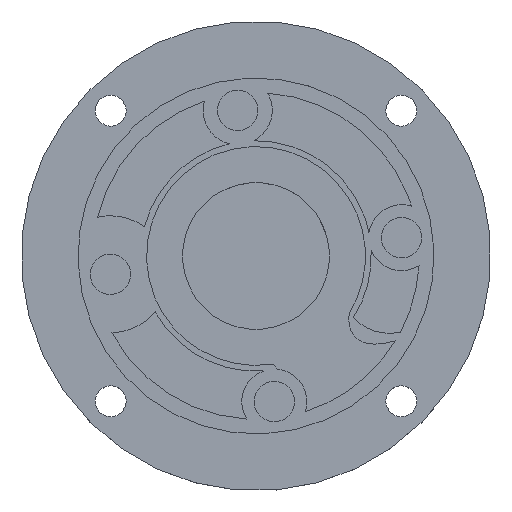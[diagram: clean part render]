
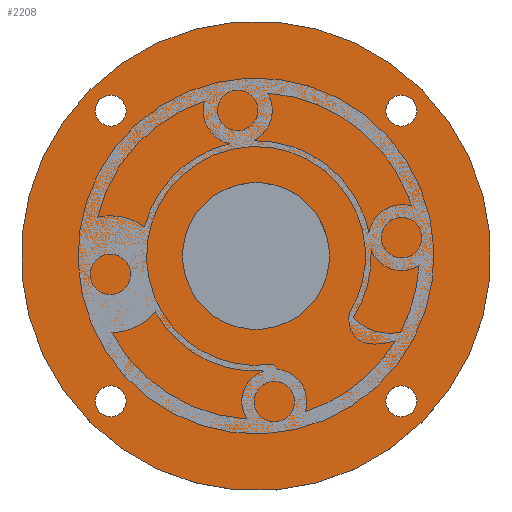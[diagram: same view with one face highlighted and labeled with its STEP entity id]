
A CAD part, top view. The second image highlights one B-rep face of the part: STEP entity #2208.
In plain terms, the highlighted planar face has unit normal (0, 0, 1).
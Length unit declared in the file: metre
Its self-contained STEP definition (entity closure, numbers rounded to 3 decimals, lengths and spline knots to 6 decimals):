
#9 = EDGE_CURVE ( 'NONE', #2229, #265, #2344, .T. ) ;
#17 = ORIENTED_EDGE ( 'NONE', *, *, #2207, .T. ) ;
#25 = DIRECTION ( 'NONE',  ( 0., 0., 1. ) ) ;
#45 = DIRECTION ( 'NONE',  ( 0., -1., 0. ) ) ;
#72 = CIRCLE ( 'NONE', #642, 0.01 ) ;
#73 = ORIENTED_EDGE ( 'NONE', *, *, #2181, .T. ) ;
#155 = EDGE_CURVE ( 'NONE', #1628, #2138, #1662, .T. ) ;
#168 = ORIENTED_EDGE ( 'NONE', *, *, #155, .T. ) ;
#186 = CARTESIAN_POINT ( 'NONE',  ( 0., 0., 0. ) ) ;
#221 = CARTESIAN_POINT ( 'NONE',  ( 0., -0.01, 0. ) ) ;
#254 = CARTESIAN_POINT ( 'NONE',  ( 0.021455, -0.020091, 0. ) ) ;
#265 = VERTEX_POINT ( 'NONE', #683 ) ;
#292 = FACE_BOUND ( 'NONE', #2603, .T. ) ;
#308 = AXIS2_PLACEMENT_3D ( 'NONE', #475, #1069, #1851 ) ;
#341 = DIRECTION ( 'NONE',  ( 0., 0., -1. ) ) ;
#353 = CIRCLE ( 'NONE', #2713, 0.0021 ) ;
#381 = VERTEX_POINT ( 'NONE', #2854 ) ;
#427 = EDGE_CURVE ( 'NONE', #2881, #2033, #353, .T. ) ;
#451 = EDGE_LOOP ( 'NONE', ( #2314, #2280 ) ) ;
#475 = CARTESIAN_POINT ( 'NONE',  ( -0.032384, -0.032384, 0. ) ) ;
#520 = CARTESIAN_POINT ( 'NONE',  ( 0., 0.032, 0. ) ) ;
#538 = DIRECTION ( 'NONE',  ( 0., 0., -1. ) ) ;
#613 = VERTEX_POINT ( 'NONE', #2673 ) ;
#627 = ORIENTED_EDGE ( 'NONE', *, *, #2520, .T. ) ;
#642 = AXIS2_PLACEMENT_3D ( 'NONE', #2669, #2368, #2920 ) ;
#651 = DIRECTION ( 'NONE',  ( 0., -1., 0. ) ) ;
#679 = CARTESIAN_POINT ( 'NONE',  ( -0.017991, -0.021455, 0. ) ) ;
#683 = CARTESIAN_POINT ( 'NONE',  ( 0.021455, -0.015891, 0. ) ) ;
#745 = PLANE ( 'NONE',  #308 ) ;
#846 = VERTEX_POINT ( 'NONE', #221 ) ;
#867 = VERTEX_POINT ( 'NONE', #2898 ) ;
#967 = FACE_BOUND ( 'NONE', #2836, .T. ) ;
#1003 = DIRECTION ( 'NONE',  ( 0., 0., -1. ) ) ;
#1010 = CIRCLE ( 'NONE', #3349, 0.0021 ) ;
#1044 = DIRECTION ( 'NONE',  ( 0., -1., 0. ) ) ;
#1045 = ORIENTED_EDGE ( 'NONE', *, *, #2883, .T. ) ;
#1055 = FACE_BOUND ( 'NONE', #1775, .T. ) ;
#1069 = DIRECTION ( 'NONE',  ( 0., 0., 1. ) ) ;
#1150 = CARTESIAN_POINT ( 'NONE',  ( -0.021455, 0.020091, 0. ) ) ;
#1303 = CIRCLE ( 'NONE', #2810, 0.0021 ) ;
#1311 = CARTESIAN_POINT ( 'NONE',  ( 0.017991, 0.021455, 0. ) ) ;
#1334 = EDGE_CURVE ( 'NONE', #867, #2916, #2231, .T. ) ;
#1350 = AXIS2_PLACEMENT_3D ( 'NONE', #1311, #3200, #2922 ) ;
#1360 = EDGE_CURVE ( 'NONE', #846, #381, #72, .T. ) ;
#1510 = EDGE_LOOP ( 'NONE', ( #168, #1688 ) ) ;
#1561 = AXIS2_PLACEMENT_3D ( 'NONE', #2821, #341, #2243 ) ;
#1569 = AXIS2_PLACEMENT_3D ( 'NONE', #2599, #2855, #2615 ) ;
#1628 = VERTEX_POINT ( 'NONE', #2176 ) ;
#1636 = CIRCLE ( 'NONE', #1350, 0.0021 ) ;
#1662 = CIRCLE ( 'NONE', #1569, 0.032 ) ;
#1675 = CARTESIAN_POINT ( 'NONE',  ( -0.021455, 0.017991, 0. ) ) ;
#1688 = ORIENTED_EDGE ( 'NONE', *, *, #3332, .T. ) ;
#1734 = DIRECTION ( 'NONE',  ( 0., 0., -1. ) ) ;
#1761 = DIRECTION ( 'NONE',  ( 0., -1., 0. ) ) ;
#1775 = EDGE_LOOP ( 'NONE', ( #3377, #1045 ) ) ;
#1816 = DIRECTION ( 'NONE',  ( 0., -1., 0. ) ) ;
#1851 = DIRECTION ( 'NONE',  ( 1., 0., 0. ) ) ;
#1913 = DIRECTION ( 'NONE',  ( 0., -1., 0. ) ) ;
#1952 = CARTESIAN_POINT ( 'NONE',  ( -0.017991, -0.019355, 0. ) ) ;
#1965 = DIRECTION ( 'NONE',  ( 0., -1., 0. ) ) ;
#2015 = CIRCLE ( 'NONE', #3191, 0.032 ) ;
#2033 = VERTEX_POINT ( 'NONE', #2107 ) ;
#2084 = DIRECTION ( 'NONE',  ( 0., 0., 1. ) ) ;
#2099 = AXIS2_PLACEMENT_3D ( 'NONE', #679, #2572, #1761 ) ;
#2107 = CARTESIAN_POINT ( 'NONE',  ( -0.021455, 0.015891, 0. ) ) ;
#2115 = EDGE_CURVE ( 'NONE', #381, #846, #2744, .T. ) ;
#2138 = VERTEX_POINT ( 'NONE', #520 ) ;
#2176 = CARTESIAN_POINT ( 'NONE',  ( 0., -0.032, 0. ) ) ;
#2181 = EDGE_CURVE ( 'NONE', #613, #2699, #1303, .T. ) ;
#2201 = AXIS2_PLACEMENT_3D ( 'NONE', #2710, #25, #1913 ) ;
#2207 = EDGE_CURVE ( 'NONE', #2699, #613, #1636, .T. ) ;
#2208 = ADVANCED_FACE ( 'NONE', ( #2234, #1055, #967, #292, #3168, #2926 ), #745, .T. ) ;
#2220 = AXIS2_PLACEMENT_3D ( 'NONE', #1675, #538, #45 ) ;
#2229 = VERTEX_POINT ( 'NONE', #254 ) ;
#2231 = CIRCLE ( 'NONE', #2099, 0.0021 ) ;
#2234 = FACE_BOUND ( 'NONE', #2925, .T. ) ;
#2243 = DIRECTION ( 'NONE',  ( 0., -1., 0. ) ) ;
#2280 = ORIENTED_EDGE ( 'NONE', *, *, #2115, .F. ) ;
#2314 = ORIENTED_EDGE ( 'NONE', *, *, #1360, .F. ) ;
#2344 = CIRCLE ( 'NONE', #2975, 0.0021 ) ;
#2350 = CARTESIAN_POINT ( 'NONE',  ( -0.021455, 0.017991, 0. ) ) ;
#2368 = DIRECTION ( 'NONE',  ( 0., 0., 1. ) ) ;
#2406 = CIRCLE ( 'NONE', #2220, 0.0021 ) ;
#2520 = EDGE_CURVE ( 'NONE', #265, #2229, #1010, .T. ) ;
#2572 = DIRECTION ( 'NONE',  ( 0., 0., -1. ) ) ;
#2599 = CARTESIAN_POINT ( 'NONE',  ( 0., 0., 0. ) ) ;
#2603 = EDGE_LOOP ( 'NONE', ( #17, #73 ) ) ;
#2615 = DIRECTION ( 'NONE',  ( 0., -1., 0. ) ) ;
#2658 = CARTESIAN_POINT ( 'NONE',  ( 0.017991, 0.021455, 0. ) ) ;
#2669 = CARTESIAN_POINT ( 'NONE',  ( 0., 0., 0. ) ) ;
#2673 = CARTESIAN_POINT ( 'NONE',  ( 0.017991, 0.023555, 0. ) ) ;
#2683 = DIRECTION ( 'NONE',  ( 0., 0., -1. ) ) ;
#2699 = VERTEX_POINT ( 'NONE', #2779 ) ;
#2710 = CARTESIAN_POINT ( 'NONE',  ( 0., 0., 0. ) ) ;
#2713 = AXIS2_PLACEMENT_3D ( 'NONE', #2350, #1003, #1816 ) ;
#2744 = CIRCLE ( 'NONE', #2201, 0.01 ) ;
#2755 = DIRECTION ( 'NONE',  ( 0., 0., -1. ) ) ;
#2779 = CARTESIAN_POINT ( 'NONE',  ( 0.017991, 0.019355, 0. ) ) ;
#2810 = AXIS2_PLACEMENT_3D ( 'NONE', #2658, #2683, #3223 ) ;
#2821 = CARTESIAN_POINT ( 'NONE',  ( -0.017991, -0.021455, 0. ) ) ;
#2824 = ORIENTED_EDGE ( 'NONE', *, *, #3165, .T. ) ;
#2836 = EDGE_LOOP ( 'NONE', ( #3000, #627 ) ) ;
#2846 = CARTESIAN_POINT ( 'NONE',  ( 0.021455, -0.017991, 0. ) ) ;
#2854 = CARTESIAN_POINT ( 'NONE',  ( 0., 0.01, 0. ) ) ;
#2855 = DIRECTION ( 'NONE',  ( 0., 0., 1. ) ) ;
#2874 = CIRCLE ( 'NONE', #1561, 0.0021 ) ;
#2881 = VERTEX_POINT ( 'NONE', #1150 ) ;
#2883 = EDGE_CURVE ( 'NONE', #2916, #867, #2874, .T. ) ;
#2898 = CARTESIAN_POINT ( 'NONE',  ( -0.017991, -0.023555, 0. ) ) ;
#2916 = VERTEX_POINT ( 'NONE', #1952 ) ;
#2920 = DIRECTION ( 'NONE',  ( 0., -1., 0. ) ) ;
#2922 = DIRECTION ( 'NONE',  ( 0., -1., 0. ) ) ;
#2925 = EDGE_LOOP ( 'NONE', ( #2824, #3257 ) ) ;
#2926 = FACE_OUTER_BOUND ( 'NONE', #1510, .T. ) ;
#2975 = AXIS2_PLACEMENT_3D ( 'NONE', #2846, #1734, #651 ) ;
#3000 = ORIENTED_EDGE ( 'NONE', *, *, #9, .T. ) ;
#3043 = CARTESIAN_POINT ( 'NONE',  ( 0.021455, -0.017991, 0. ) ) ;
#3165 = EDGE_CURVE ( 'NONE', #2033, #2881, #2406, .T. ) ;
#3168 = FACE_BOUND ( 'NONE', #451, .T. ) ;
#3191 = AXIS2_PLACEMENT_3D ( 'NONE', #186, #2084, #1044 ) ;
#3200 = DIRECTION ( 'NONE',  ( 0., 0., -1. ) ) ;
#3223 = DIRECTION ( 'NONE',  ( 0., -1., 0. ) ) ;
#3257 = ORIENTED_EDGE ( 'NONE', *, *, #427, .T. ) ;
#3332 = EDGE_CURVE ( 'NONE', #2138, #1628, #2015, .T. ) ;
#3349 = AXIS2_PLACEMENT_3D ( 'NONE', #3043, #2755, #1965 ) ;
#3377 = ORIENTED_EDGE ( 'NONE', *, *, #1334, .T. ) ;
